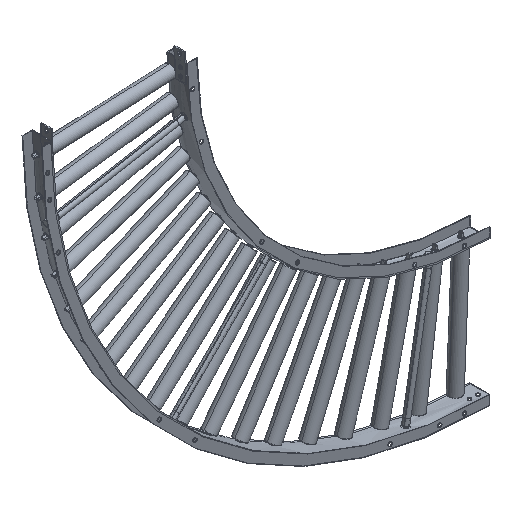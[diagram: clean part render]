
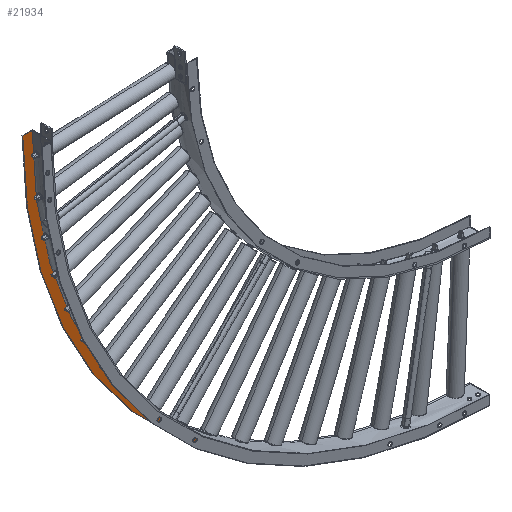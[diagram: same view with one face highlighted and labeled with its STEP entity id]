
A CAD part, isometric view. The second image highlights one B-rep face of the part: STEP entity #21934.
In plain terms, the highlighted planar face has unit normal (0, -1, 0).
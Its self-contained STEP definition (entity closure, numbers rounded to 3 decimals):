
#252 = AXIS2_PLACEMENT_3D ( 'NONE', #29606, #3174, #14952 ) ;
#939 = DIRECTION ( 'NONE',  ( 0., 0., 1. ) ) ;
#2110 = VERTEX_POINT ( 'NONE', #32496 ) ;
#2831 = CARTESIAN_POINT ( 'NONE',  ( 912.585, 63.628, -961.722 ) ) ;
#3174 = DIRECTION ( 'NONE',  ( 0., 1., 0. ) ) ;
#5077 = CARTESIAN_POINT ( 'NONE',  ( -417.415, 63.628, 368.278 ) ) ;
#6071 = FACE_OUTER_BOUND ( 'NONE', #15163, .T. ) ;
#7415 = VERTEX_POINT ( 'NONE', #30765 ) ;
#8641 = VECTOR ( 'NONE', #9507, 1000. ) ;
#9507 = DIRECTION ( 'NONE',  ( 0., 0., 1. ) ) ;
#10056 = AXIS2_PLACEMENT_3D ( 'NONE', #18710, #35674, #939 ) ;
#11089 = EDGE_CURVE ( 'NONE', #33021, #2110, #29969, .T. ) ;
#12105 = CIRCLE ( 'NONE', #17048, 1330. ) ;
#13139 = CIRCLE ( 'NONE', #10056, 1302.3 ) ;
#14022 = LINE ( 'NONE', #28695, #34504 ) ;
#14434 = EDGE_CURVE ( 'NONE', #20691, #7415, #14022, .T. ) ;
#14952 = DIRECTION ( 'NONE',  ( 0., 0., 1. ) ) ;
#15138 = CARTESIAN_POINT ( 'NONE',  ( 912.585, 63.628, 368.278 ) ) ;
#15163 = EDGE_LOOP ( 'NONE', ( #15313, #27452, #20498, #23122 ) ) ;
#15310 = CARTESIAN_POINT ( 'NONE',  ( 912.585, 63.628, -961.722 ) ) ;
#15313 = ORIENTED_EDGE ( 'NONE', *, *, #11089, .T. ) ;
#17048 = AXIS2_PLACEMENT_3D ( 'NONE', #15138, #26882, #35762 ) ;
#17822 = PLANE ( 'NONE',  #252 ) ;
#18710 = CARTESIAN_POINT ( 'NONE',  ( 912.585, 63.628, 368.278 ) ) ;
#20498 = ORIENTED_EDGE ( 'NONE', *, *, #14434, .F. ) ;
#20691 = VERTEX_POINT ( 'NONE', #5077 ) ;
#21934 = ADVANCED_FACE ( 'NONE', ( #6071 ), #17822, .F. ) ;
#23122 = ORIENTED_EDGE ( 'NONE', *, *, #33444, .F. ) ;
#26882 = DIRECTION ( 'NONE',  ( 0., 1., 0. ) ) ;
#27452 = ORIENTED_EDGE ( 'NONE', *, *, #28253, .T. ) ;
#28253 = EDGE_CURVE ( 'NONE', #2110, #7415, #13139, .T. ) ;
#28695 = CARTESIAN_POINT ( 'NONE',  ( -417.415, 63.628, 368.278 ) ) ;
#29606 = CARTESIAN_POINT ( 'NONE',  ( 912.585, 63.628, 368.278 ) ) ;
#29969 = LINE ( 'NONE', #15310, #8641 ) ;
#30765 = CARTESIAN_POINT ( 'NONE',  ( -389.715, 63.628, 368.278 ) ) ;
#32496 = CARTESIAN_POINT ( 'NONE',  ( 912.585, 63.628, -934.022 ) ) ;
#33021 = VERTEX_POINT ( 'NONE', #2831 ) ;
#33444 = EDGE_CURVE ( 'NONE', #33021, #20691, #12105, .T. ) ;
#34280 = DIRECTION ( 'NONE',  ( 1., 0., 0. ) ) ;
#34504 = VECTOR ( 'NONE', #34280, 1000. ) ;
#35674 = DIRECTION ( 'NONE',  ( 0., 1., 0. ) ) ;
#35762 = DIRECTION ( 'NONE',  ( 0., 0., 1. ) ) ;
